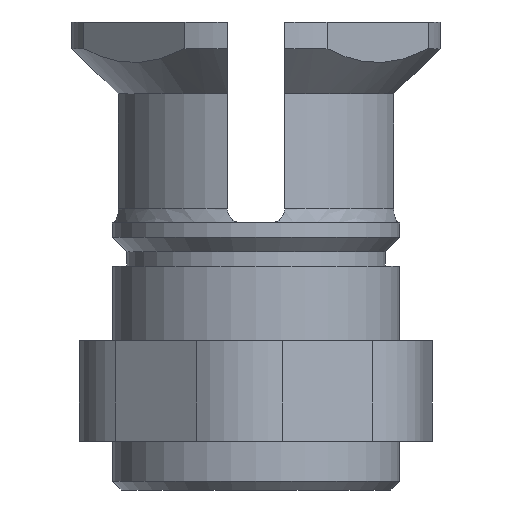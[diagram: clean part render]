
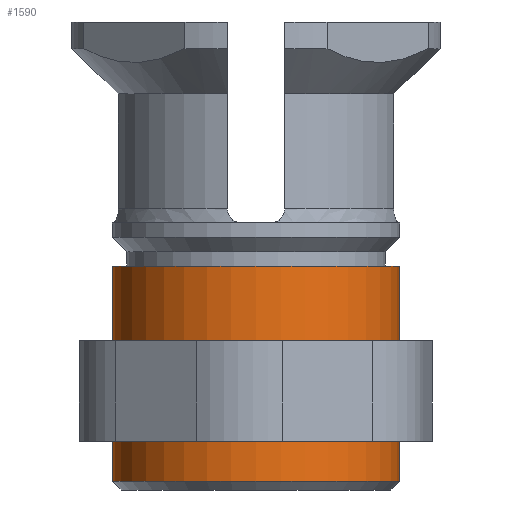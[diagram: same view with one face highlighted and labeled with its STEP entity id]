
A CAD part, front view. The second image highlights one B-rep face of the part: STEP entity #1590.
In plain terms, the highlighted cylindrical face has radius 5 mm (diameter 10 mm), a partial arc.
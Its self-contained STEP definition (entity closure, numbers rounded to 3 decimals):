
#51 = CARTESIAN_POINT ( 'NONE',  ( 5., 0., 8.5 ) ) ;
#127 = CIRCLE ( 'NONE', #982, 5. ) ;
#130 = CARTESIAN_POINT ( 'NONE',  ( -5., 0., 0. ) ) ;
#142 = ORIENTED_EDGE ( 'NONE', *, *, #548, .T. ) ;
#149 = CARTESIAN_POINT ( 'NONE',  ( 0., 0., -7.5 ) ) ;
#182 = DIRECTION ( 'NONE',  ( 0., 0., -1. ) ) ;
#287 = DIRECTION ( 'NONE',  ( 1., 0., 0. ) ) ;
#419 = LINE ( 'NONE', #51, #1126 ) ;
#459 = VERTEX_POINT ( 'NONE', #644 ) ;
#470 = CARTESIAN_POINT ( 'NONE',  ( -5., 0., -7.5 ) ) ;
#483 = CIRCLE ( 'NONE', #1147, 5. ) ;
#548 = EDGE_CURVE ( 'NONE', #968, #574, #696, .T. ) ;
#574 = VERTEX_POINT ( 'NONE', #470 ) ;
#644 = CARTESIAN_POINT ( 'NONE',  ( 5., 0., -7.5 ) ) ;
#671 = CARTESIAN_POINT ( 'NONE',  ( 0., 0., 8.5 ) ) ;
#696 = LINE ( 'NONE', #1877, #2142 ) ;
#718 = ORIENTED_EDGE ( 'NONE', *, *, #800, .F. ) ;
#800 = EDGE_CURVE ( 'NONE', #1703, #459, #419, .T. ) ;
#813 = DIRECTION ( 'NONE',  ( 0., 0., -1. ) ) ;
#968 = VERTEX_POINT ( 'NONE', #130 ) ;
#982 = AXIS2_PLACEMENT_3D ( 'NONE', #1157, #182, #1560 ) ;
#1126 = VECTOR ( 'NONE', #813, 1000. ) ;
#1147 = AXIS2_PLACEMENT_3D ( 'NONE', #149, #1315, #287 ) ;
#1157 = CARTESIAN_POINT ( 'NONE',  ( 0., 0., 0. ) ) ;
#1302 = DIRECTION ( 'NONE',  ( -1., 0., 0. ) ) ;
#1315 = DIRECTION ( 'NONE',  ( 0., 0., -1. ) ) ;
#1560 = DIRECTION ( 'NONE',  ( -1., 0., 0. ) ) ;
#1573 = EDGE_CURVE ( 'NONE', #459, #574, #483, .T. ) ;
#1590 = ADVANCED_FACE ( 'NONE', ( #2480 ), #1679, .T. ) ;
#1679 = CYLINDRICAL_SURFACE ( 'NONE', #2360, 5. ) ;
#1703 = VERTEX_POINT ( 'NONE', #2136 ) ;
#1868 = DIRECTION ( 'NONE',  ( 0., 0., -1. ) ) ;
#1877 = CARTESIAN_POINT ( 'NONE',  ( -5., 0., 8.5 ) ) ;
#2074 = EDGE_CURVE ( 'NONE', #1703, #968, #127, .T. ) ;
#2076 = DIRECTION ( 'NONE',  ( 0., 0., -1. ) ) ;
#2126 = EDGE_LOOP ( 'NONE', ( #718, #2443, #142, #2503 ) ) ;
#2136 = CARTESIAN_POINT ( 'NONE',  ( 5., 0., 0. ) ) ;
#2142 = VECTOR ( 'NONE', #2076, 1000. ) ;
#2360 = AXIS2_PLACEMENT_3D ( 'NONE', #671, #1868, #1302 ) ;
#2443 = ORIENTED_EDGE ( 'NONE', *, *, #2074, .T. ) ;
#2480 = FACE_OUTER_BOUND ( 'NONE', #2126, .T. ) ;
#2503 = ORIENTED_EDGE ( 'NONE', *, *, #1573, .F. ) ;
